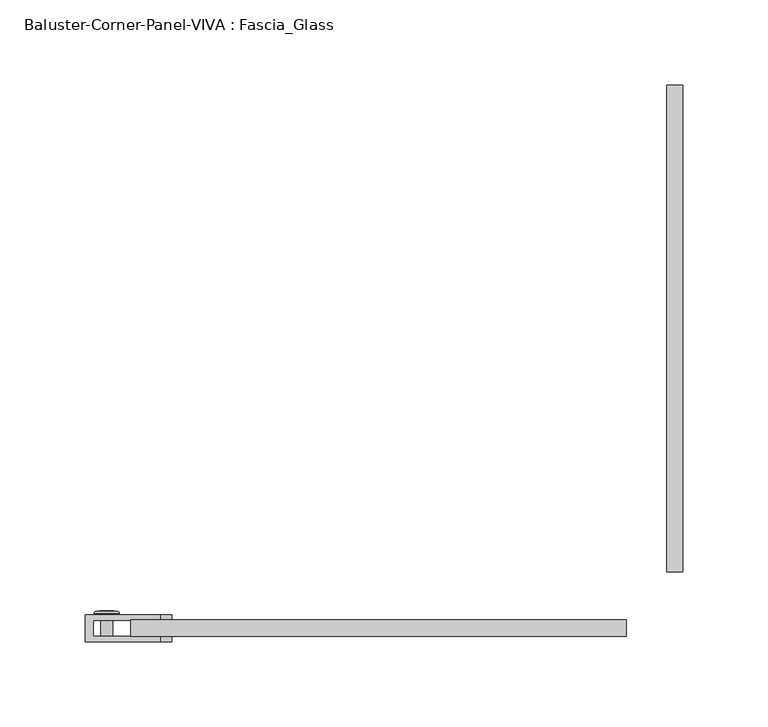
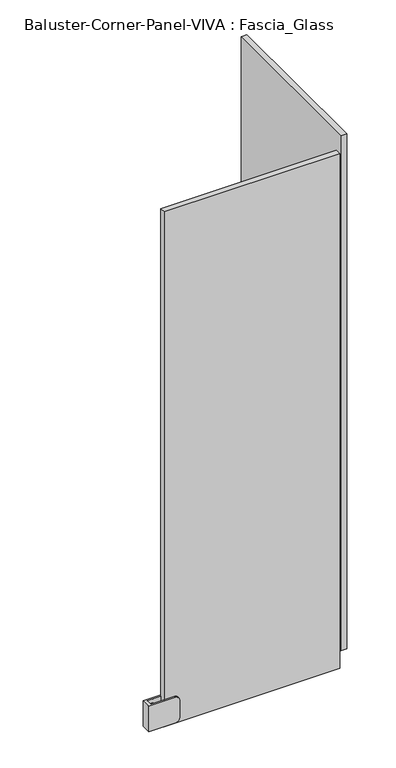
"""IFC4 building model written with IfcOpenShell, lengths in millimetres: railing geometry, Baluster-Corner-Panel-VIVA : Fascia_Glass."""

import ifcopenshell
import ifcopenshell.guid

model = None  # the IFC model being written
_history = None  # IfcOwnerHistory: only IFC2X3 demands one
_inside = {}  # id of a spatial element -> (the spatial element, [elements in it])
_under = {}  # id of a project, library or spatial element -> (it, [spatial elements below it])
_declared = {}  # id of a project -> (the project, [libraries it declares])
_typed = {}  # id of a type object -> (the type object, [elements of that type])
_made_of = {}  # id of a material, layer set ... -> (it, [elements and type objects made of it])


def new_model(schema):
    """Start an empty IFC model of exactly this schema.

    Asked for "IFC4X3", IfcOpenShell would pick the latest addendum, in which some entities
    have other attributes; the version numbers below select the first issue.
    IFC2X3 requires an IfcOwnerHistory on every rooted entity: one is made here for all.
    """
    global model, _history
    if schema == "IFC4X3":
        model = ifcopenshell.file(schema_version=(4, 3, 0, 0))
    else:
        model = ifcopenshell.file(schema=schema)
    _inside.clear()
    _under.clear()
    _declared.clear()
    _typed.clear()
    _made_of.clear()
    _history = None
    if model.schema == "IFC2X3":
        org = make("IfcOrganization", Name="unknown")
        user = make(
            "IfcPersonAndOrganization",
            ThePerson=make("IfcPerson", FamilyName="unknown"),
            TheOrganization=org,
        )
        app = make(
            "IfcApplication",
            ApplicationDeveloper=org,
            Version="unknown",
            ApplicationFullName="unknown",
            ApplicationIdentifier="unknown",
        )
        _history = make(
            "IfcOwnerHistory",
            OwningUser=user,
            OwningApplication=app,
            ChangeAction="ADDED",
            CreationDate=0,
        )
    return model


def make(cls, **values):
    """One entity of the class cls with the attributes given. An attribute that is None is left unset."""
    return model.create_entity(
        cls, **{name: value for name, value in values.items() if value is not None}
    )


def rooted(cls, **values):
    """An entity with a GlobalId (a new one), such as an element, a storey or a relation."""
    return make(cls, GlobalId=ifcopenshell.guid.new(), OwnerHistory=_history, **values)


def si_unit(unit_type, name, prefix=None):
    """IfcSIUnit, for example si_unit("LENGTHUNIT", "METRE", prefix="MILLI")."""
    return make("IfcSIUnit", UnitType=unit_type, Prefix=prefix, Name=name)


def assignment(units):
    """IfcUnitAssignment: the units of a project."""
    return None if units is None else make("IfcUnitAssignment", Units=units)


def point(xyz):
    """IfcCartesianPoint."""
    return None if xyz is None else make("IfcCartesianPoint", Coordinates=xyz)


def direction(xyz):
    """IfcDirection."""
    return None if xyz is None else make("IfcDirection", DirectionRatios=xyz)


def frame(location, z_axis=None, x_axis=None):
    """IfcAxis2Placement3D, a coordinate frame: its origin and axes. An axis left out is left unset."""
    return make(
        "IfcAxis2Placement3D",
        Location=point(location),
        Axis=direction(z_axis),
        RefDirection=direction(x_axis),
    )


def origin():
    """The frame at (0, 0, 0) with its axes left unset."""
    return frame((0.0, 0.0, 0.0))


def place(relative_to, where):
    """IfcLocalPlacement: puts the frame where relative to a parent placement (None: the world)."""
    return make(
        "IfcLocalPlacement", PlacementRelTo=relative_to, RelativePlacement=where
    )


def context(
    kind, dimensions, precision=None, world=None, true_north=None, identifier=None
):
    """IfcGeometricRepresentationContext, for example the 3D "Model" context."""
    return make(
        "IfcGeometricRepresentationContext",
        ContextIdentifier=identifier,
        ContextType=kind,
        CoordinateSpaceDimension=dimensions,
        Precision=precision,
        WorldCoordinateSystem=world,
        TrueNorth=true_north,
    )


def project(units=None, contexts=None):
    """IfcProject with its units and contexts."""
    return rooted(
        "IfcProject",
        Name="project",
        RepresentationContexts=contexts,
        UnitsInContext=assignment(units),
    )


def spatial(cls, under=None, at=None, **own):
    """A site, building, storey or space (cls), placed at a placement, below another one or the project."""
    s = rooted(cls, ObjectPlacement=at, **own)
    if under is not None:
        _under.setdefault(under.id(), (under, []))[1].append(s)
    return s


def polyline(points):
    """IfcPolyline through the points."""
    return make("IfcPolyline", Points=[point(p) for p in points])


def circle_curve(where, radius):
    """IfcCircle in the frame where."""
    return make("IfcCircle", Position=where, Radius=radius)


def ellipse_curve(where, semi_axis1, semi_axis2):
    """IfcEllipse in the frame where."""
    return make(
        "IfcEllipse", Position=where, SemiAxis1=semi_axis1, SemiAxis2=semi_axis2
    )


def trimmed(basis, trim1, trim2, sense, master):
    """IfcTrimmedCurve: the piece of a basis curve between two trims."""
    return make(
        "IfcTrimmedCurve",
        BasisCurve=basis,
        Trim1=trim1,
        Trim2=trim2,
        SenseAgreement=sense,
        MasterRepresentation=master,
    )


def outline(outer, holes=None, kind="AREA"):
    """IfcArbitraryClosedProfileDef: a profile drawn as a closed curve; with holes, ...WithVoids."""
    if holes is None:
        return make("IfcArbitraryClosedProfileDef", ProfileType=kind, OuterCurve=outer)
    return make(
        "IfcArbitraryProfileDefWithVoids",
        ProfileType=kind,
        OuterCurve=outer,
        InnerCurves=holes,
    )


def extrude(swept, where, along, depth):
    """IfcExtrudedAreaSolid: the profile swept, set in the frame where, extruded along a direction by depth."""
    return make(
        "IfcExtrudedAreaSolid",
        SweptArea=swept,
        Position=where,
        ExtrudedDirection=direction(along),
        Depth=depth,
    )


def shape(context_of_items, identifier, shape_type, items):
    """IfcShapeRepresentation: the items that make up one representation, for example the "Body"."""
    return make(
        "IfcShapeRepresentation",
        ContextOfItems=context_of_items,
        RepresentationIdentifier=identifier,
        RepresentationType=shape_type,
        Items=items,
    )


def source(mapping_origin, context_of_items, identifier, shape_type, items):
    """IfcRepresentationMap: a shape defined once, which mapped items show again and again."""
    return make(
        "IfcRepresentationMap",
        MappingOrigin=mapping_origin,
        MappedRepresentation=shape(context_of_items, identifier, shape_type, items),
    )


def transform(
    local_origin,
    x_axis=None,
    y_axis=None,
    z_axis=None,
    scale=None,
    scale2=None,
    scale3=None,
    uniform=True,
):
    """IfcCartesianTransformationOperator3D, or its non-uniform kind. x_axis, y_axis, z_axis: its Axis1, 2, 3."""
    if uniform:
        return make(
            "IfcCartesianTransformationOperator3D",
            Axis1=direction(x_axis),
            Axis2=direction(y_axis),
            LocalOrigin=point(local_origin),
            Scale=scale,
            Axis3=direction(z_axis),
        )
    return make(
        "IfcCartesianTransformationOperator3DnonUniform",
        Axis1=direction(x_axis),
        Axis2=direction(y_axis),
        LocalOrigin=point(local_origin),
        Scale=scale,
        Axis3=direction(z_axis),
        Scale2=scale2,
        Scale3=scale3,
    )


def mapped(mapping_source, mapping_target):
    """IfcMappedItem: shows the shape of a source again, moved by a transform."""
    return make(
        "IfcMappedItem", MappingSource=mapping_source, MappingTarget=mapping_target
    )


def made_of(thing, what):
    """Note that an element or type object is made of a material, layer set ...; save() writes the relation."""
    if what is not None:
        _made_of.setdefault(what.id(), (what, []))[1].append(thing)
    return thing


def element(
    cls,
    number,
    at=None,
    inside=None,
    cuts=None,
    type_object=None,
    material=None,
    context=None,
    identifier="Body",
    shape_type=None,
    held_by="IfcProductDefinitionShape",
    body=None,
    shapes=None,
    **own,
):
    """One element of the class cls, such as IfcWall. Its Tag is "e" and its number.

    at: its placement. inside: the storey or other place that contains it. cuts: it is an
    opening in that element (IfcRelVoidsElement). A single representation is given by context,
    identifier, shape_type and body (its items); several are given by shapes. held_by: the class
    of the entity that holds the representations. save() writes the other relations.
    """
    e = rooted(cls, Tag="e%d" % number, ObjectPlacement=at, **own)
    if body is not None:
        shapes = [shape(context, identifier, shape_type, body)]
    if shapes is not None:
        e.Representation = make(held_by, Representations=shapes)
    if inside is not None:
        _inside.setdefault(inside.id(), (inside, []))[1].append(e)
    if cuts is not None:
        rooted(
            "IfcRelVoidsElement", RelatingBuildingElement=cuts, RelatedOpeningElement=e
        )
    if type_object is not None:
        _typed.setdefault(type_object.id(), (type_object, []))[1].append(e)
    return made_of(e, material)


def aggregate(whole, parts):
    """IfcRelAggregates: a whole, such as a stair, and the parts it consists of."""
    return rooted("IfcRelAggregates", RelatingObject=whole, RelatedObjects=parts)


def save(model, path):
    """Write the relations noted so far, then the file.

    IfcRelAggregates (storeys below a building ...), IfcRelContainedInSpatialStructure (elements
    in a storey), IfcRelDefinesByType, IfcRelAssociatesMaterial and IfcRelDeclares: one each for
    every whole, place, type object, material and project.
    """
    for whole, parts in _under.values():
        aggregate(whole, parts)
    for where, things in _inside.values():
        rooted(
            "IfcRelContainedInSpatialStructure",
            RelatedElements=things,
            RelatingStructure=where,
        )
    for kind, things in _typed.values():
        rooted("IfcRelDefinesByType", RelatedObjects=things, RelatingType=kind)
    for what, things in _made_of.values():
        rooted("IfcRelAssociatesMaterial", RelatedObjects=things, RelatingMaterial=what)
    for by, libraries in _declared.values():
        rooted("IfcRelDeclares", RelatingContext=by, RelatedDefinitions=libraries)
    model.write(path)


def plane_surface(at):
    """IfcPlane: the flat surface through the origin of the frame at, square to its z axis."""
    return make("IfcPlane", Position=at)


def cylinder_surface(at, radius):
    """IfcCylindricalSurface: all points at the distance radius from the z axis of the frame at."""
    return make("IfcCylindricalSurface", Position=at, Radius=radius)


def revolved_surface(curve, axis_point, axis_direction):
    """IfcSurfaceOfRevolution: the curve turned about the line through axis_point along axis_direction."""
    return make(
        "IfcSurfaceOfRevolution",
        SweptCurve=make("IfcArbitraryOpenProfileDef", ProfileType="CURVE", Curve=curve),
        AxisPosition=make("IfcAxis1Placement", Location=point(axis_point), Axis=direction(axis_direction)),
    )


def advanced_brep(points, edges, surfaces, faces):
    """IfcAdvancedBrep: a solid bounded by faces that lie on surfaces and meet in shared edges.

    An edge is (start, end): straight between two places in points (the first is 0);
    or (start, end, curve); or (start, end, curve, False) where it runs against its curve.
    A face is (place in surfaces, loops), or (place, loops, False) where it looks against
    its surface's normal. A loop lists edges by number (the first is 1), with a minus sign
    where the edge is run from its end to its start. The first loop is the outer one.
    """
    corners = [point(p) for p in points]
    vertices = [make("IfcVertexPoint", VertexGeometry=c) for c in corners]
    made = []
    for start, end, *more in edges:
        made.append(
            make(
                "IfcEdgeCurve",
                EdgeStart=vertices[start],
                EdgeEnd=vertices[end],
                EdgeGeometry=more[0] if more else make("IfcPolyline", Points=[corners[start], corners[end]]),
                SameSense=more[1] if len(more) > 1 else True,
            )
        )
    hull = []
    for where, loops, *sense in faces:
        bounds = []
        for j, loop in enumerate(loops):
            ring = [make("IfcOrientedEdge", EdgeElement=made[abs(k) - 1], Orientation=k > 0) for k in loop]
            bounds.append(
                make(
                    "IfcFaceOuterBound" if j == 0 else "IfcFaceBound",
                    Bound=make("IfcEdgeLoop", EdgeList=ring),
                    Orientation=True,
                )
            )
        hull.append(make("IfcAdvancedFace", Bounds=bounds, FaceSurface=surfaces[where], SameSense=sense[0] if sense else True))
    return make("IfcAdvancedBrep", Outer=make("IfcClosedShell", CfsFaces=hull))


def baluster_corner_panel_viva_fascia_glass_9397f638(model_context):
    return source(origin(), model_context, "Body", "SolidModel", [
        advanced_brep(
        [(-305.2355104, -36.7665, 138.7358896), (-305.2355104, -24.0665, 138.7358896), (-298.1446186, -24.0665, 138.7358896), (-298.1446186, -36.7665, 138.7358896), (-309.0978536, -24.0665, 138.7358896), (-294.2822754, -24.0665, 138.7358896), (-303.3461399, -23.199388, 138.7358896), (-303.3461399, -36.7665, 138.7358896), (-300.0339891, -36.7665, 138.7358896), (-300.0339891, -23.199388, 138.7358896), (-309.0978536, -23.2316551, 138.7358896), (-307.8165815, -21.9503831, 138.7358896), (-295.5635474, -21.9503831, 138.7358896), (-294.2822754, -23.2316551, 138.7358896), (-305.98866, -21.9503831, 138.7358896), (-297.3914689, -21.9503831, 138.7358896), (-305.98866, -23.199388, 138.7358896), (-297.3914689, -23.199388, 138.7358896)],
        [
            (0, 1),
            (1, 2, circle_curve(frame((-301.6900645, -24.0665, 138.7358896), z_axis=(0.0, -1.0, 0.0), x_axis=(1.0, 0.0, 0.0)), 3.5454459)),
            (2, 3),
            (3, 0, circle_curve(frame((-301.6900645, -36.7665, 138.7358896), z_axis=(0.0, 1.0, 0.0), x_axis=(1.0, 0.0, 0.0)), 3.5454459)),
            (2, 1, circle_curve(frame((-301.6900645, -24.0665, 138.7358896), z_axis=(0.0, -1.0, 0.0), x_axis=(1.0, 0.0, 0.0)), 3.5454459)),
            (0, 3, circle_curve(frame((-301.6900645, -36.7665, 138.7358896), z_axis=(0.0, 1.0, 0.0), x_axis=(1.0, 0.0, 0.0)), 3.5454459)),
            (1, 4),
            (4, 5, circle_curve(frame((-301.6900645, -24.0665, 138.7358896), z_axis=(0.0, -1.0, 0.0), x_axis=(1.0, 0.0, 0.0)), 7.4077891)),
            (5, 2),
            (5, 4, circle_curve(frame((-301.6900645, -24.0665, 138.7358896), z_axis=(0.0, -1.0, 0.0), x_axis=(1.0, 0.0, 0.0)), 7.4077891)),
            (6, 7),
            (7, 8, circle_curve(frame((-301.6900645, -36.7665, 138.7358896), z_axis=(0.0, -1.0, 0.0), x_axis=(1.0, 0.0, 0.0)), 1.6560754)),
            (8, 9),
            (9, 6, circle_curve(frame((-301.6900645, -23.199388, 138.7358896), z_axis=(0.0, 1.0, 0.0), x_axis=(1.0, 0.0, 0.0)), 1.6560754)),
            (8, 7, circle_curve(frame((-301.6900645, -36.7665, 138.7358896), z_axis=(0.0, -1.0, 0.0), x_axis=(1.0, 0.0, 0.0)), 1.6560754)),
            (6, 9, circle_curve(frame((-301.6900645, -23.199388, 138.7358896), z_axis=(0.0, 1.0, 0.0), x_axis=(1.0, 0.0, 0.0)), 1.6560754)),
            (10, 11, circle_curve(frame((-307.8165815, -23.2316551, 138.7358896), z_axis=(0.0, 0.0, -1.0), x_axis=(-1.0, 0.0, 0.0)), 1.281272)),
            (11, 12, circle_curve(frame((-301.6900645, -21.9503831, 138.7358896), z_axis=(0.0, -1.0, 0.0), x_axis=(1.0, 0.0, 0.0)), 6.1265171)),
            (12, 13, circle_curve(frame((-295.5635474, -23.2316551, 138.7358896), z_axis=(0.0, 0.0, -1.0), x_axis=(1.0, 0.0, 0.0)), 1.281272)),
            (13, 10, circle_curve(frame((-301.6900645, -23.2316551, 138.7358896), z_axis=(0.0, 1.0, 0.0), x_axis=(1.0, 0.0, 0.0)), 7.4077891)),
            (12, 11, circle_curve(frame((-301.6900645, -21.9503831, 138.7358896), z_axis=(0.0, -1.0, 0.0), x_axis=(1.0, 0.0, 0.0)), 6.1265171)),
            (10, 13, circle_curve(frame((-301.6900645, -23.2316551, 138.7358896), z_axis=(0.0, 1.0, 0.0), x_axis=(1.0, 0.0, 0.0)), 7.4077891)),
            (11, 14),
            (14, 15, circle_curve(frame((-301.6900645, -21.9503831, 138.7358896), z_axis=(0.0, -1.0, 0.0), x_axis=(1.0, 0.0, 0.0)), 4.2985955)),
            (15, 12),
            (15, 14, circle_curve(frame((-301.6900645, -21.9503831, 138.7358896), z_axis=(0.0, -1.0, 0.0), x_axis=(1.0, 0.0, 0.0)), 4.2985955)),
            (4, 10),
            (13, 5),
            (7, 0),
            (3, 8),
            (14, 16),
            (16, 17, circle_curve(frame((-301.6900645, -23.199388, 138.7358896), z_axis=(0.0, -1.0, 0.0), x_axis=(1.0, 0.0, 0.0)), 4.2985955)),
            (17, 15),
            (17, 16, circle_curve(frame((-301.6900645, -23.199388, 138.7358896), z_axis=(0.0, -1.0, 0.0), x_axis=(1.0, 0.0, 0.0)), 4.2985955)),
            (16, 6),
            (9, 17),
        ],
        [
            cylinder_surface(frame((-301.6900645, -27.5632331, 138.7358896), z_axis=(0.0, -1.0, 0.0), x_axis=(1.0, 0.0, 0.0)), 3.5454459),
            plane_surface(frame((-301.6900645, -24.0665, 138.7358896), z_axis=(0.0, -1.0, 0.0), x_axis=(1.0, 0.0, 0.0))),
            revolved_surface(polyline([(-300.0339891, -36.7665, 138.7358896), (-300.0339891, -23.199388, 138.7358896)]), (-301.6900645, -27.5632331, 138.7358896), (0.0, -1.0, 0.0)),
            revolved_surface(trimmed(ellipse_curve(frame((-295.5635474, -23.2316551, 138.7358896), z_axis=(0.0, 0.0, -1.0), x_axis=(1.0, 0.0, 0.0)), 1.281272, 1.281272), [point((-295.5635474, -21.9503831, 138.7358896))], [point((-294.2822754, -23.2316551, 138.7358896))], True, "CARTESIAN"), (-301.6900645, -27.5632331, 138.7358896), (0.0, -1.0, 0.0)),
            plane_surface(frame((-301.6900645, -21.9503831, 138.7358896), z_axis=(0.0, 1.0, 0.0), x_axis=(1.0, 0.0, 0.0))),
            cylinder_surface(frame((-301.6900645, -27.5632331, 138.7358896), z_axis=(0.0, -1.0, 0.0), x_axis=(1.0, 0.0, 0.0)), 7.4077891),
            plane_surface(frame((-301.6900645, -36.7665, 138.7358896), z_axis=(0.0, -1.0, 0.0), x_axis=(1.0, 0.0, 0.0))),
            revolved_surface(polyline([(-297.39146900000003, -23.199388, 138.7358896), (-297.39146900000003, -21.9503831, 138.7358896)]), (-301.6900645, -27.5632331, 138.7358896), (0.0, -1.0, 0.0)),
            plane_surface(frame((-301.6900645, -23.199388, 138.7358896), z_axis=(0.0, 1.0, 0.0), x_axis=(1.0, 0.0, 0.0))),
        ],
        [
            (0, [[1, 2, 3, 4]]),
            (0, [[-3, 5, -1, 6]]),
            (1, [[7, 8, 9, -2]]),
            (1, [[-9, 10, -7, -5]]),
            (2, [[11, 12, 13, 14]]),
            (2, [[-13, 15, -11, 16]]),
            (3, [[17, 18, 19, 20]]),
            (3, [[-19, 21, -17, 22]]),
            (4, [[23, 24, 25, -18]]),
            (4, [[-25, 26, -23, -21]]),
            (5, [[27, -20, 28, -8]]),
            (5, [[-28, -22, -27, -10]]),
            (6, [[29, -4, 30, -12]]),
            (6, [[-30, -6, -29, -15]]),
            (7, [[31, 32, 33, -24]]),
            (7, [[-33, 34, -31, -26]]),
            (8, [[35, -14, 36, -32]]),
            (8, [[-36, -16, -35, -34]]),
        ],
    ),
        advanced_brep(
        [(-305.2355104, -36.7665, 114.1296396), (-305.2355104, -24.0665, 114.1296396), (-298.1446186, -24.0665, 114.1296396), (-298.1446186, -36.7665, 114.1296396), (-309.0978536, -24.0665, 114.1296396), (-294.2822754, -24.0665, 114.1296396), (-303.3461399, -23.199388, 114.1296396), (-303.3461399, -36.7665, 114.1296396), (-300.0339891, -36.7665, 114.1296396), (-300.0339891, -23.199388, 114.1296396), (-309.0978536, -23.2316551, 114.1296396), (-307.8165815, -21.9503831, 114.1296396), (-295.5635474, -21.9503831, 114.1296396), (-294.2822754, -23.2316551, 114.1296396), (-305.98866, -21.9503831, 114.1296396), (-297.3914689, -21.9503831, 114.1296396), (-305.98866, -23.199388, 114.1296396), (-297.3914689, -23.199388, 114.1296396)],
        [
            (0, 1),
            (1, 2, circle_curve(frame((-301.6900645, -24.0665, 114.1296396), z_axis=(0.0, -1.0, 0.0), x_axis=(1.0, 0.0, 0.0)), 3.5454459)),
            (2, 3),
            (3, 0, circle_curve(frame((-301.6900645, -36.7665, 114.1296396), z_axis=(0.0, 1.0, 0.0), x_axis=(1.0, 0.0, 0.0)), 3.5454459)),
            (2, 1, circle_curve(frame((-301.6900645, -24.0665, 114.1296396), z_axis=(0.0, -1.0, 0.0), x_axis=(1.0, 0.0, 0.0)), 3.5454459)),
            (0, 3, circle_curve(frame((-301.6900645, -36.7665, 114.1296396), z_axis=(0.0, 1.0, 0.0), x_axis=(1.0, 0.0, 0.0)), 3.5454459)),
            (1, 4),
            (4, 5, circle_curve(frame((-301.6900645, -24.0665, 114.1296396), z_axis=(0.0, -1.0, 0.0), x_axis=(1.0, 0.0, 0.0)), 7.4077891)),
            (5, 2),
            (5, 4, circle_curve(frame((-301.6900645, -24.0665, 114.1296396), z_axis=(0.0, -1.0, 0.0), x_axis=(1.0, 0.0, 0.0)), 7.4077891)),
            (6, 7),
            (7, 8, circle_curve(frame((-301.6900645, -36.7665, 114.1296396), z_axis=(0.0, -1.0, 0.0), x_axis=(1.0, 0.0, 0.0)), 1.6560754)),
            (8, 9),
            (9, 6, circle_curve(frame((-301.6900645, -23.199388, 114.1296396), z_axis=(0.0, 1.0, 0.0), x_axis=(1.0, 0.0, 0.0)), 1.6560754)),
            (8, 7, circle_curve(frame((-301.6900645, -36.7665, 114.1296396), z_axis=(0.0, -1.0, 0.0), x_axis=(1.0, 0.0, 0.0)), 1.6560754)),
            (6, 9, circle_curve(frame((-301.6900645, -23.199388, 114.1296396), z_axis=(0.0, 1.0, 0.0), x_axis=(1.0, 0.0, 0.0)), 1.6560754)),
            (10, 11, circle_curve(frame((-307.8165815, -23.2316551, 114.1296396), z_axis=(0.0, 0.0, -1.0), x_axis=(-1.0, 0.0, 0.0)), 1.281272)),
            (11, 12, circle_curve(frame((-301.6900645, -21.9503831, 114.1296396), z_axis=(0.0, -1.0, 0.0), x_axis=(1.0, 0.0, 0.0)), 6.1265171)),
            (12, 13, circle_curve(frame((-295.5635474, -23.2316551, 114.1296396), z_axis=(0.0, 0.0, -1.0), x_axis=(1.0, 0.0, 0.0)), 1.281272)),
            (13, 10, circle_curve(frame((-301.6900645, -23.2316551, 114.1296396), z_axis=(0.0, 1.0, 0.0), x_axis=(1.0, 0.0, 0.0)), 7.4077891)),
            (12, 11, circle_curve(frame((-301.6900645, -21.9503831, 114.1296396), z_axis=(0.0, -1.0, 0.0), x_axis=(1.0, 0.0, 0.0)), 6.1265171)),
            (10, 13, circle_curve(frame((-301.6900645, -23.2316551, 114.1296396), z_axis=(0.0, 1.0, 0.0), x_axis=(1.0, 0.0, 0.0)), 7.4077891)),
            (11, 14),
            (14, 15, circle_curve(frame((-301.6900645, -21.9503831, 114.1296396), z_axis=(0.0, -1.0, 0.0), x_axis=(1.0, 0.0, 0.0)), 4.2985955)),
            (15, 12),
            (15, 14, circle_curve(frame((-301.6900645, -21.9503831, 114.1296396), z_axis=(0.0, -1.0, 0.0), x_axis=(1.0, 0.0, 0.0)), 4.2985955)),
            (7, 0),
            (3, 8),
            (4, 10),
            (13, 5),
            (14, 16),
            (16, 17, circle_curve(frame((-301.6900645, -23.199388, 114.1296396), z_axis=(0.0, -1.0, 0.0), x_axis=(1.0, 0.0, 0.0)), 4.2985955)),
            (17, 15),
            (17, 16, circle_curve(frame((-301.6900645, -23.199388, 114.1296396), z_axis=(0.0, -1.0, 0.0), x_axis=(1.0, 0.0, 0.0)), 4.2985955)),
            (16, 6),
            (9, 17),
        ],
        [
            cylinder_surface(frame((-301.6900645, -27.5632331, 114.1296396), z_axis=(0.0, -1.0, 0.0), x_axis=(1.0, 0.0, 0.0)), 3.5454459),
            plane_surface(frame((-301.6900645, -24.0665, 114.1296396), z_axis=(0.0, -1.0, 0.0), x_axis=(1.0, 0.0, 0.0))),
            revolved_surface(polyline([(-300.0339891, -36.7665, 114.1296396), (-300.0339891, -23.199388, 114.1296396)]), (-301.6900645, -27.5632331, 114.1296396), (0.0, -1.0, 0.0)),
            revolved_surface(trimmed(ellipse_curve(frame((-295.5635474, -23.2316551, 114.1296396), z_axis=(0.0, 0.0, -1.0), x_axis=(1.0, 0.0, 0.0)), 1.281272, 1.281272), [point((-295.5635474, -21.9503831, 114.1296396))], [point((-294.2822754, -23.2316551, 114.1296396))], True, "CARTESIAN"), (-301.6900645, -27.5632331, 114.1296396), (0.0, -1.0, 0.0)),
            plane_surface(frame((-301.6900645, -21.9503831, 114.1296396), z_axis=(0.0, 1.0, 0.0), x_axis=(1.0, 0.0, 0.0))),
            plane_surface(frame((-301.6900645, -36.7665, 114.1296396), z_axis=(0.0, -1.0, 0.0), x_axis=(1.0, 0.0, 0.0))),
            cylinder_surface(frame((-301.6900645, -27.5632331, 114.1296396), z_axis=(0.0, -1.0, 0.0), x_axis=(1.0, 0.0, 0.0)), 7.4077891),
            revolved_surface(polyline([(-297.39146900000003, -23.199388, 114.1296396), (-297.39146900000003, -21.9503831, 114.1296396)]), (-301.6900645, -27.5632331, 114.1296396), (0.0, -1.0, 0.0)),
            plane_surface(frame((-301.6900645, -23.199388, 114.1296396), z_axis=(0.0, 1.0, 0.0), x_axis=(1.0, 0.0, 0.0))),
        ],
        [
            (0, [[1, 2, 3, 4]]),
            (0, [[-3, 5, -1, 6]]),
            (1, [[7, 8, 9, -2]]),
            (1, [[-9, 10, -7, -5]]),
            (2, [[11, 12, 13, 14]]),
            (2, [[-13, 15, -11, 16]]),
            (3, [[17, 18, 19, 20]]),
            (3, [[-19, 21, -17, 22]]),
            (4, [[23, 24, 25, -18]]),
            (4, [[-25, 26, -23, -21]]),
            (5, [[27, -4, 28, -12]]),
            (5, [[-28, -6, -27, -15]]),
            (6, [[29, -20, 30, -8]]),
            (6, [[-30, -22, -29, -10]]),
            (7, [[31, 32, 33, -24]]),
            (7, [[-33, 34, -31, -26]]),
            (8, [[35, -14, 36, -32]]),
            (8, [[-36, -16, -35, -34]]),
        ],
    ),
        extrude(outline(polyline([(114.1296396, -305.7839928), (110.5841937, -303.7370286), (110.5841937, -299.6431003), (114.1296396, -297.5961362), (117.6750855, -299.6431003), (117.6750855, -303.7370286), (114.1296396, -305.7839928)])), frame((0.0, -23.199388, 0.0), z_axis=(0.0, 1.0, 0.0), x_axis=(0.0, 0.0, 1.0)), (0.0, 0.0, 1.0), 1.4969696),
        advanced_brep(
        [(-314.3234092, -24.0665, 148.6577646), (-269.8734092, -24.0665, 148.6577646), (-263.5234092, -24.0665, 142.3077646), (-263.5234092, -24.0665, 110.5577646), (-269.8734092, -24.0665, 104.2077646), (-314.3234092, -24.0665, 104.2077646), (-314.3234092, -39.9415, 148.6577646), (-314.3234092, -39.9415, 104.2077646), (-269.8734092, -39.9415, 104.2077646), (-263.5234092, -39.9415, 110.5577646), (-263.5234092, -39.9415, 142.3077646), (-269.8734092, -39.9415, 148.6577646), (-269.8734092, -27.2415, 104.2077646), (-309.6053288, -27.2415, 104.2077646), (-309.6053288, -36.7665, 104.2077646), (-269.8734092, -36.7665, 104.2077646), (-309.6053288, -27.2415, 148.6577646), (-309.6053288, -36.7665, 148.6577646), (-263.5234092, -27.2415, 110.5577646), (-263.5234092, -27.2415, 142.3077646), (-269.8734092, -27.2415, 148.6577646), (-269.8734092, -36.7665, 148.6577646), (-263.5234092, -36.7665, 142.3077646), (-263.5234092, -36.7665, 110.5577646)],
        [
            (0, 1),
            (1, 2, circle_curve(frame((-269.8734092, -24.0665, 142.3077646), z_axis=(0.0, 1.0, 0.0), x_axis=(1.0, 0.0, 0.0)), 6.35)),
            (2, 3),
            (3, 4, circle_curve(frame((-269.8734092, -24.0665, 110.5577646), z_axis=(0.0, 1.0, 0.0), x_axis=(1.0, 0.0, 0.0)), 6.35)),
            (4, 5),
            (5, 0),
            (6, 7),
            (7, 8),
            (8, 9, circle_curve(frame((-269.8734092, -39.9415, 110.5577646), z_axis=(0.0, -1.0, 0.0), x_axis=(1.0, 0.0, 0.0)), 6.35)),
            (9, 10),
            (10, 11, circle_curve(frame((-269.8734092, -39.9415, 142.3077646), z_axis=(0.0, -1.0, 0.0), x_axis=(1.0, 0.0, 0.0)), 6.35)),
            (11, 6),
            (5, 7),
            (6, 0),
            (4, 12),
            (12, 13),
            (13, 14),
            (14, 15),
            (15, 8),
            (13, 16),
            (16, 17),
            (17, 14),
            (12, 18, circle_curve(frame((-269.8734092, -27.2415, 110.5577646), z_axis=(0.0, -1.0, 0.0), x_axis=(1.0, 0.0, 0.0)), 6.35)),
            (18, 19),
            (19, 20, circle_curve(frame((-269.8734092, -27.2415, 142.3077646), z_axis=(0.0, -1.0, 0.0), x_axis=(1.0, 0.0, 0.0)), 6.35)),
            (20, 16),
            (17, 21),
            (21, 22, circle_curve(frame((-269.8734092, -36.7665, 142.3077646), z_axis=(0.0, 1.0, 0.0), x_axis=(1.0, 0.0, 0.0)), 6.35)),
            (22, 23),
            (23, 15, circle_curve(frame((-269.8734092, -36.7665, 110.5577646), z_axis=(0.0, 1.0, 0.0), x_axis=(1.0, 0.0, 0.0)), 6.35)),
            (23, 9),
            (3, 18),
            (22, 10),
            (2, 19),
            (21, 11),
            (1, 20),
        ],
        [
            plane_surface(frame((-314.3234092, -24.0665, 104.2077646), z_axis=(0.0, 1.0, 0.0), x_axis=(0.0, 0.0, -1.0))),
            plane_surface(frame((-314.3234092, -39.9415, 104.2077646), z_axis=(0.0, -1.0, 0.0), x_axis=(0.0, 0.0, 1.0))),
            plane_surface(frame((-314.3234092, -24.0665, 148.6577646), z_axis=(-1.0, 0.0, 0.0), x_axis=(0.0, -1.0, 0.0))),
            plane_surface(frame((-314.3234092, -24.0665, 104.2077646), z_axis=(0.0, 0.0, -1.0), x_axis=(0.0, -1.0, 0.0))),
            plane_surface(frame((-309.6053288, -36.7665, 161.3577646), z_axis=(1.0, 0.0, 0.0), x_axis=(0.0, 0.0, -1.0))),
            plane_surface(frame((-309.6053288, -27.2415, 161.3577646), z_axis=(0.0, -1.0, 0.0), x_axis=(0.0, 0.0, -1.0))),
            plane_surface(frame((-250.8234092, -36.7665, 161.3577646), z_axis=(0.0, 1.0, 0.0), x_axis=(0.0, 0.0, -1.0))),
            cylinder_surface(frame((-269.8734092, -39.9415, 110.5577646), z_axis=(0.0, 1.0, 0.0), x_axis=(1.0, 0.0, 0.0)), 6.35),
            plane_surface(frame((-263.5234092, -24.0665, 110.5577646), z_axis=(1.0, 0.0, 0.0), x_axis=(0.0, -1.0, 0.0))),
            cylinder_surface(frame((-269.8734092, -39.9415, 142.3077646), z_axis=(0.0, 1.0, 0.0), x_axis=(1.0, 0.0, 0.0)), 6.35),
            plane_surface(frame((-269.8734092, -24.0665, 148.6577646), z_axis=(0.0, 0.0, 1.0), x_axis=(0.0, -1.0, 0.0))),
        ],
        [
            (0, [[1, 2, 3, 4, 5, 6]]),
            (1, [[7, 8, 9, 10, 11, 12]]),
            (2, [[13, -7, 14, -6]]),
            (3, [[15, 16, 17, 18, 19, -8, -13, -5]]),
            (4, [[-17, 20, 21, 22]]),
            (5, [[-16, 23, 24, 25, 26, -20]]),
            (6, [[27, 28, 29, 30, -18, -22]]),
            (7, [[-19, -30, 31, -9]]),
            (7, [[32, -23, -15, -4]]),
            (8, [[-31, -29, 33, -10]]),
            (8, [[34, -24, -32, -3]]),
            (9, [[-33, -28, 35, -11]]),
            (9, [[36, -25, -34, -2]]),
            (10, [[-14, -12, -35, -27, -21, -26, -36, -1]]),
        ],
    ),
        extrude(outline(polyline([(36.7665, 1.0851207), (27.2415, 1.0851207), (27.2415, 287.1748005), (36.7665, 287.1748005), (36.7665, 1.0851207)])), frame((0.0, 0.0, 101.6), z_axis=(0.0, 0.0, 1.0), x_axis=(1.0, 0.0, 0.0)), (0.0, 0.0, 1.0), 901.7),
        extrude(outline(polyline([(-287.3803288, -36.7665), (-287.3803288, -27.2415), (3.429, -27.2415), (3.429, -36.7665), (-287.3803288, -36.7665)])), frame((0.0, 0.0, 101.6), z_axis=(0.0, 0.0, 1.0), x_axis=(1.0, 0.0, 0.0)), (0.0, 0.0, 1.0), 901.7),
    ])


if __name__ == "__main__":
    model = new_model("IFC4")
    model_context = context("Model", 3, world=origin())
    ifc_project = project(units=[si_unit("LENGTHUNIT", "METRE", prefix="MILLI")], contexts=[model_context])
    site = spatial("IfcSite", under=ifc_project)
    building = spatial("IfcBuilding", under=site)
    placement = place(None, origin())
    baluster_corner_panel_viva_fascia_glass_shape = baluster_corner_panel_viva_fascia_glass_9397f638(model_context)
    element("IfcRailing", 1, ObjectType="Baluster-Corner-Panel-VIVA : Fascia_Glass", at=placement, inside=building, context=model_context, shape_type="MappedRepresentation", body=[
        mapped(baluster_corner_panel_viva_fascia_glass_shape, transform((0.0, 0.0, 0.0), x_axis=(1.0, 0.0, 0.0), y_axis=(0.0, 1.0, 0.0), z_axis=(0.0, 0.0, 1.0))),
    ])
    save(model, "model.ifc")
